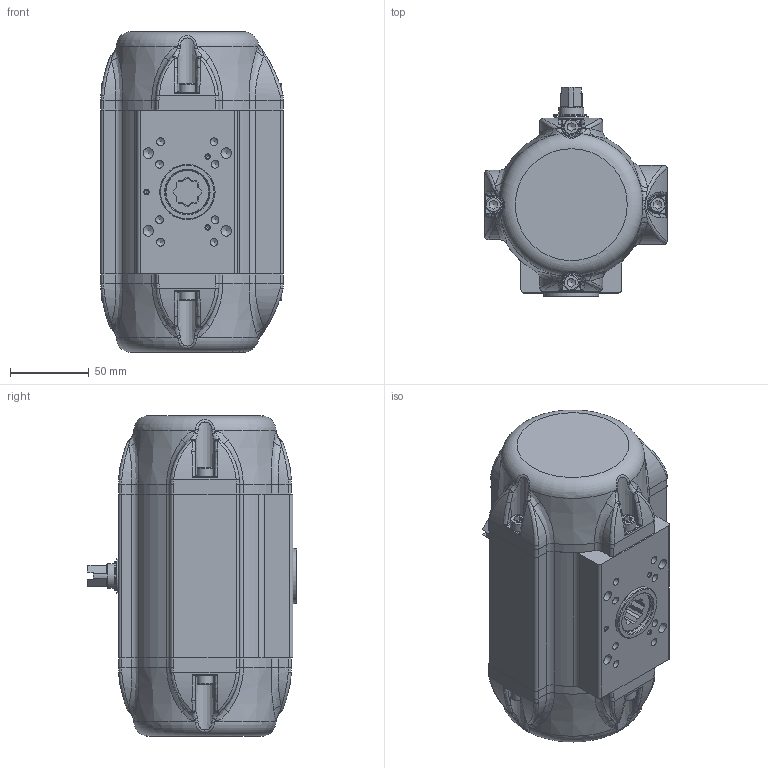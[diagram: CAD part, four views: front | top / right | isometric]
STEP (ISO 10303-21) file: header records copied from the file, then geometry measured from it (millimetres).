
FILE_DESCRIPTION((''),'2;1');
FILE_NAME('Z:\DOKUMENTATION ANTRIEBSPROGRAMM\Antriebe (neu)\BR16_SAD_SAF_90°\STEP-Dateien\15\SAF_15_BR16.stp','2017-06-20T11:23:20',('vmi'),(''),'Autodesk Inventor 2013','Autodesk Inventor 2013','');
FILE_SCHEMA(('AUTOMOTIVE_DESIGN { 1 0 10303 214 1 1 1 1 }'));
Length unit declared in the file: millimetre
Products named in the file (1): ENG-084365_Shrinkwrap_1
Bounding box: 116 x 133.5 x 203.9 mm (x, y, z)
Surface area: 111671.5 mm2 (no closed solid volume)
Topology: 0 solids, 24 shells, 533 faces, 1646 edges, 1092 vertices
Faces by surface type: plane 160, cylinder 155, bspline 120, cone 55, torus 31, sphere 12
Full cylindrical faces by diameter (mm): 1.7 x2, 2.5 x3, 4.134 x8, 4.917 x9, 5 x2, 6.647 x4, 10 x8, 11.445 x2, 14 x1, 14.9 x1, 15.8 x1, 22 x1, 28 x1, 35 x1
Entity records: 22554 total; most frequent: CARTESIAN_POINT 8972, ORIENTED_EDGE 2573, DIRECTION 2400, EDGE_CURVE 1512, VERTEX_POINT 1050, AXIS2_PLACEMENT_3D 943, EDGE_LOOP 665, FACE_OUTER_BOUND 533
